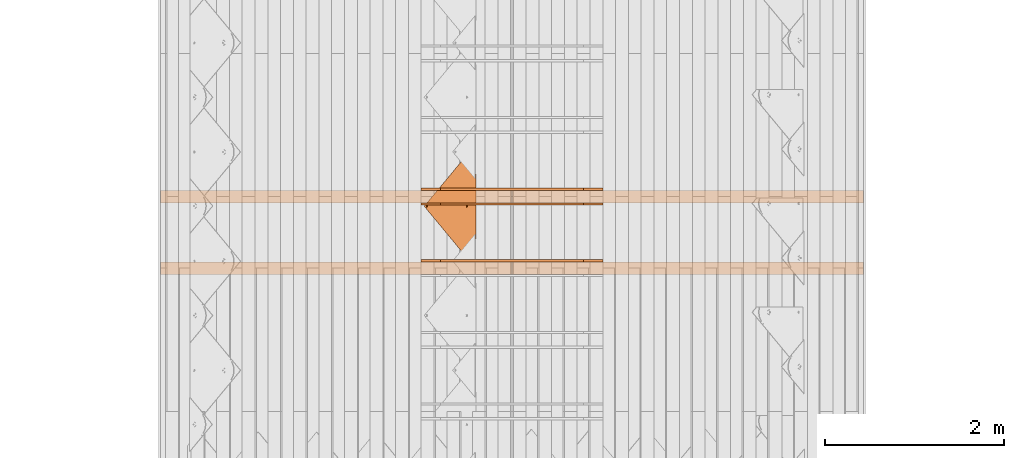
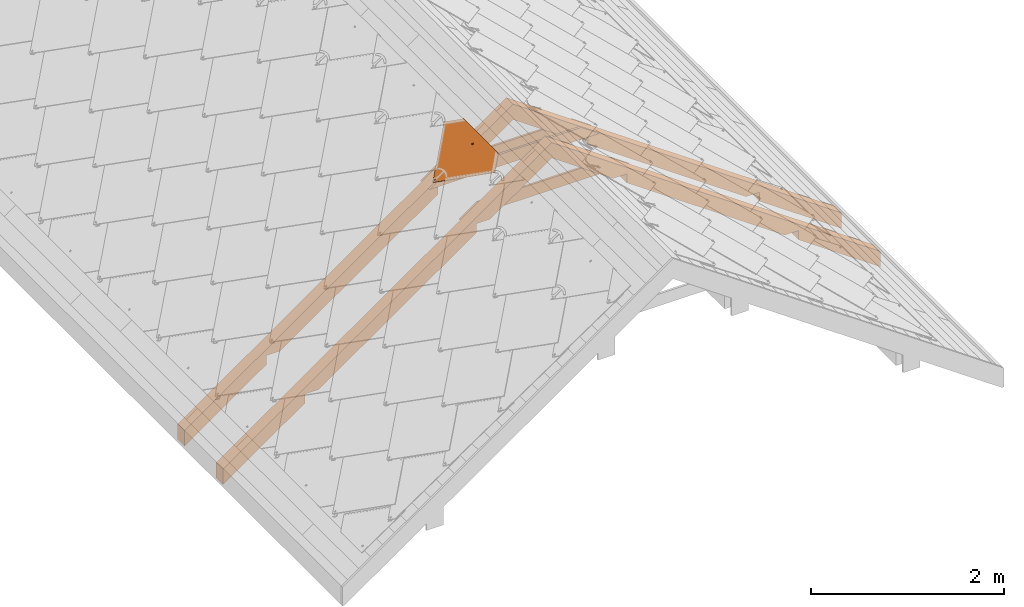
# One storey, part 33 of 133: 6 proxies, 1 element without a shape of its own.
"""IFC2X3 building model written with IfcOpenShell, lengths in millimetres."""

import ifcopenshell
import ifcopenshell.guid

model = None  # the IFC model being written
_history = None  # IfcOwnerHistory: only IFC2X3 demands one
_inside = {}  # id of a spatial element -> (the spatial element, [elements in it])
_under = {}  # id of a project, library or spatial element -> (it, [spatial elements below it])
_declared = {}  # id of a project -> (the project, [libraries it declares])
_typed = {}  # id of a type object -> (the type object, [elements of that type])
_made_of = {}  # id of a material, layer set ... -> (it, [elements and type objects made of it])


def new_model(schema):
    """Start an empty IFC model of exactly this schema.

    Asked for "IFC4X3", IfcOpenShell would pick the latest addendum, in which some entities
    have other attributes; the version numbers below select the first issue.
    IFC2X3 requires an IfcOwnerHistory on every rooted entity: one is made here for all.
    """
    global model, _history
    if schema == "IFC4X3":
        model = ifcopenshell.file(schema_version=(4, 3, 0, 0))
    else:
        model = ifcopenshell.file(schema=schema)
    _inside.clear()
    _under.clear()
    _declared.clear()
    _typed.clear()
    _made_of.clear()
    _history = None
    if model.schema == "IFC2X3":
        org = make("IfcOrganization", Name="unknown")
        user = make(
            "IfcPersonAndOrganization",
            ThePerson=make("IfcPerson", FamilyName="unknown"),
            TheOrganization=org,
        )
        app = make(
            "IfcApplication",
            ApplicationDeveloper=org,
            Version="unknown",
            ApplicationFullName="unknown",
            ApplicationIdentifier="unknown",
        )
        _history = make(
            "IfcOwnerHistory",
            OwningUser=user,
            OwningApplication=app,
            ChangeAction="ADDED",
            CreationDate=0,
        )
    return model


def make(cls, **values):
    """One entity of the class cls with the attributes given. An attribute that is None is left unset."""
    return model.create_entity(
        cls, **{name: value for name, value in values.items() if value is not None}
    )


def entity(cls, *values):
    """Any entity or typed value of the class cls, its attributes in the order of the schema. None: left unset."""
    e = model.create_entity(cls)
    for i, value in enumerate(values):
        if value is not None:
            e[i] = value
    return e


def rooted(cls, **values):
    """An entity with a GlobalId (a new one), such as an element, a storey or a relation."""
    return make(cls, GlobalId=ifcopenshell.guid.new(), OwnerHistory=_history, **values)


def si_unit(unit_type, name, prefix=None):
    """IfcSIUnit, for example si_unit("LENGTHUNIT", "METRE", prefix="MILLI")."""
    return make("IfcSIUnit", UnitType=unit_type, Prefix=prefix, Name=name)


def converted_unit(unit_type, name, factor, base, dimensions=None, offset=None):
    """IfcConversionBasedUnit, such as the inch: factor (a typed value) times the base unit."""
    return make(
        "IfcConversionBasedUnit"
        if offset is None
        else "IfcConversionBasedUnitWithOffset",
        ConversionOffset=offset,
        Dimensions=None
        if dimensions is None
        else entity("IfcDimensionalExponents", *dimensions),
        UnitType=unit_type,
        Name=name,
        ConversionFactor=make(
            "IfcMeasureWithUnit", ValueComponent=factor, UnitComponent=base
        ),
    )


def derived_unit(unit_type, elements):
    """IfcDerivedUnit: a product of units, each with its exponent."""
    return make(
        "IfcDerivedUnit",
        Elements=[
            make("IfcDerivedUnitElement", Unit=unit, Exponent=power)
            for unit, power in elements
        ],
        UnitType=unit_type,
    )


def assignment(units):
    """IfcUnitAssignment: the units of a project."""
    return None if units is None else make("IfcUnitAssignment", Units=units)


def point(xyz):
    """IfcCartesianPoint."""
    return None if xyz is None else make("IfcCartesianPoint", Coordinates=xyz)


def direction(xyz):
    """IfcDirection."""
    return None if xyz is None else make("IfcDirection", DirectionRatios=xyz)


def frame(location, z_axis=None, x_axis=None):
    """IfcAxis2Placement3D, a coordinate frame: its origin and axes. An axis left out is left unset."""
    return make(
        "IfcAxis2Placement3D",
        Location=point(location),
        Axis=direction(z_axis),
        RefDirection=direction(x_axis),
    )


def origin():
    """The frame at (0, 0, 0) with its axes left unset."""
    return frame((0.0, 0.0, 0.0))


def place(relative_to, where):
    """IfcLocalPlacement: puts the frame where relative to a parent placement (None: the world)."""
    return make(
        "IfcLocalPlacement", PlacementRelTo=relative_to, RelativePlacement=where
    )


def context(
    kind, dimensions, precision=None, world=None, true_north=None, identifier=None
):
    """IfcGeometricRepresentationContext, for example the 3D "Model" context."""
    return make(
        "IfcGeometricRepresentationContext",
        ContextIdentifier=identifier,
        ContextType=kind,
        CoordinateSpaceDimension=dimensions,
        Precision=precision,
        WorldCoordinateSystem=world,
        TrueNorth=true_north,
    )


def subcontext(parent, identifier, kind, view, scale=None):
    """IfcGeometricRepresentationSubContext, for example "Body" below "Model"."""
    return make(
        "IfcGeometricRepresentationSubContext",
        ContextIdentifier=identifier,
        ContextType=kind,
        ParentContext=parent,
        TargetScale=scale,
        TargetView=view,
    )


def project(units=None, contexts=None):
    """IfcProject with its units and contexts."""
    return rooted(
        "IfcProject",
        Name="project",
        RepresentationContexts=contexts,
        UnitsInContext=assignment(units),
    )


def spatial(cls, under=None, at=None, **own):
    """A site, building, storey or space (cls), placed at a placement, below another one or the project."""
    s = rooted(cls, ObjectPlacement=at, **own)
    if under is not None:
        _under.setdefault(under.id(), (under, []))[1].append(s)
    return s


def polyline(points):
    """IfcPolyline through the points."""
    return make("IfcPolyline", Points=[point(p) for p in points])


def outline(outer, holes=None, kind="AREA"):
    """IfcArbitraryClosedProfileDef: a profile drawn as a closed curve; with holes, ...WithVoids."""
    if holes is None:
        return make("IfcArbitraryClosedProfileDef", ProfileType=kind, OuterCurve=outer)
    return make(
        "IfcArbitraryProfileDefWithVoids",
        ProfileType=kind,
        OuterCurve=outer,
        InnerCurves=holes,
    )


def extrude(swept, where, along, depth):
    """IfcExtrudedAreaSolid: the profile swept, set in the frame where, extruded along a direction by depth."""
    return make(
        "IfcExtrudedAreaSolid",
        SweptArea=swept,
        Position=where,
        ExtrudedDirection=direction(along),
        Depth=depth,
    )


def faces_of(points, faces, orient=None, outer=None):
    """IfcFace entities. A face is a list of loops; a loop is a list of indices into points, from 0.

    orient and outer hold one flag for each loop. By default every Orientation is true, the
    first loop of a face is its IfcFaceOuterBound and the others are IfcFaceBound.
    """
    made = []
    for i, loops in enumerate(faces):
        bounds = []
        for j, loop in enumerate(loops):
            is_outer = j == 0 if outer is None else outer[i][j]
            bounds.append(
                make(
                    "IfcFaceOuterBound" if is_outer else "IfcFaceBound",
                    Bound=make("IfcPolyLoop", Polygon=[points[k] for k in loop]),
                    Orientation=True if orient is None else orient[i][j],
                )
            )
        made.append(make("IfcFace", Bounds=bounds))
    return made


def faceted_brep(points, faces, orient=None, outer=None, voids=None):
    """IfcFacetedBrep: a solid bounded by flat faces; with voids (closed shells), ...WithVoids."""
    shared = [point(p) for p in points]
    hull = make("IfcClosedShell", CfsFaces=faces_of(shared, faces, orient, outer))
    if voids is None:
        return make("IfcFacetedBrep", Outer=hull)
    return make(
        "IfcFacetedBrepWithVoids",
        Outer=hull,
        Voids=[
            make(cls, CfsFaces=faces_of(shared, fs, o, b)) for cls, fs, o, b in voids
        ],
    )


def shape(context_of_items, identifier, shape_type, items):
    """IfcShapeRepresentation: the items that make up one representation, for example the "Body"."""
    return make(
        "IfcShapeRepresentation",
        ContextOfItems=context_of_items,
        RepresentationIdentifier=identifier,
        RepresentationType=shape_type,
        Items=items,
    )


def source(mapping_origin, context_of_items, identifier, shape_type, items):
    """IfcRepresentationMap: a shape defined once, which mapped items show again and again."""
    return make(
        "IfcRepresentationMap",
        MappingOrigin=mapping_origin,
        MappedRepresentation=shape(context_of_items, identifier, shape_type, items),
    )


def transform(
    local_origin,
    x_axis=None,
    y_axis=None,
    z_axis=None,
    scale=None,
    scale2=None,
    scale3=None,
    uniform=True,
):
    """IfcCartesianTransformationOperator3D, or its non-uniform kind. x_axis, y_axis, z_axis: its Axis1, 2, 3."""
    if uniform:
        return make(
            "IfcCartesianTransformationOperator3D",
            Axis1=direction(x_axis),
            Axis2=direction(y_axis),
            LocalOrigin=point(local_origin),
            Scale=scale,
            Axis3=direction(z_axis),
        )
    return make(
        "IfcCartesianTransformationOperator3DnonUniform",
        Axis1=direction(x_axis),
        Axis2=direction(y_axis),
        LocalOrigin=point(local_origin),
        Scale=scale,
        Axis3=direction(z_axis),
        Scale2=scale2,
        Scale3=scale3,
    )


def mapped(mapping_source, mapping_target):
    """IfcMappedItem: shows the shape of a source again, moved by a transform."""
    return make(
        "IfcMappedItem", MappingSource=mapping_source, MappingTarget=mapping_target
    )


def material(Name=None, Category=None):
    """IfcMaterial."""
    return make("IfcMaterial", Name=Name, Category=Category)


def material_list(materials):
    """IfcMaterialList."""
    return make("IfcMaterialList", Materials=materials)


def made_of(thing, what):
    """Note that an element or type object is made of a material, layer set ...; save() writes the relation."""
    if what is not None:
        _made_of.setdefault(what.id(), (what, []))[1].append(thing)
    return thing


def type_object(cls, material=None, **own):
    """A type object (cls), such as IfcWallType, which elements share."""
    return made_of(rooted(cls, **own), material)


def type_shapes(of_type, sources):
    """Give a type object the sources (RepresentationMaps) that its elements show as mapped items."""
    of_type.RepresentationMaps = sources


def element(
    cls,
    number,
    at=None,
    inside=None,
    cuts=None,
    type_object=None,
    material=None,
    context=None,
    identifier="Body",
    shape_type=None,
    held_by="IfcProductDefinitionShape",
    body=None,
    shapes=None,
    **own,
):
    """One element of the class cls, such as IfcWall. Its Tag is "e" and its number.

    at: its placement. inside: the storey or other place that contains it. cuts: it is an
    opening in that element (IfcRelVoidsElement). A single representation is given by context,
    identifier, shape_type and body (its items); several are given by shapes. held_by: the class
    of the entity that holds the representations. save() writes the other relations.
    """
    e = rooted(cls, Tag="e%d" % number, ObjectPlacement=at, **own)
    if body is not None:
        shapes = [shape(context, identifier, shape_type, body)]
    if shapes is not None:
        e.Representation = make(held_by, Representations=shapes)
    if inside is not None:
        _inside.setdefault(inside.id(), (inside, []))[1].append(e)
    if cuts is not None:
        rooted(
            "IfcRelVoidsElement", RelatingBuildingElement=cuts, RelatedOpeningElement=e
        )
    if type_object is not None:
        _typed.setdefault(type_object.id(), (type_object, []))[1].append(e)
    return made_of(e, material)


def aggregate(whole, parts):
    """IfcRelAggregates: a whole, such as a stair, and the parts it consists of."""
    return rooted("IfcRelAggregates", RelatingObject=whole, RelatedObjects=parts)


def save(model, path):
    """Write the relations noted so far, then the file.

    IfcRelAggregates (storeys below a building ...), IfcRelContainedInSpatialStructure (elements
    in a storey), IfcRelDefinesByType, IfcRelAssociatesMaterial and IfcRelDeclares: one each for
    every whole, place, type object, material and project.
    """
    for whole, parts in _under.values():
        aggregate(whole, parts)
    for where, things in _inside.values():
        rooted(
            "IfcRelContainedInSpatialStructure",
            RelatedElements=things,
            RelatingStructure=where,
        )
    for kind, things in _typed.values():
        rooted("IfcRelDefinesByType", RelatedObjects=things, RelatingType=kind)
    for what, things in _made_of.values():
        rooted("IfcRelAssociatesMaterial", RelatedObjects=things, RelatingMaterial=what)
    for by, libraries in _declared.values():
        rooted("IfcRelDeclares", RelatingContext=by, RelatedDefinitions=libraries)
    model.write(path)


model = new_model("IFC2X3")

# Units and contexts
model_context = context("Model", 3, precision=0.01, world=origin(), true_north=direction((6.12303176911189e-17, 1.0)))
body_context = subcontext(model_context, "Body", "Model", "MODEL_VIEW")
ifc_project = project(units=[si_unit("LENGTHUNIT", "METRE", prefix="MILLI"), si_unit("AREAUNIT", "SQUARE_METRE"), si_unit("VOLUMEUNIT", "CUBIC_METRE"), converted_unit("PLANEANGLEUNIT", "DEGREE", entity("IfcRatioMeasure", 0.0174532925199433), si_unit("PLANEANGLEUNIT", "RADIAN"), dimensions=[0, 0, 0, 0, 0, 0, 0]), si_unit("MASSUNIT", "GRAM", prefix="KILO"), derived_unit("MASSDENSITYUNIT", [(si_unit("MASSUNIT", "GRAM", prefix="KILO"), 1), (si_unit("LENGTHUNIT", "METRE"), -3)]), si_unit("TIMEUNIT", "SECOND"), si_unit("FREQUENCYUNIT", "HERTZ"), si_unit("THERMODYNAMICTEMPERATUREUNIT", "DEGREE_CELSIUS"), derived_unit("THERMALTRANSMITTANCEUNIT", [(si_unit("MASSUNIT", "GRAM", prefix="KILO"), 1), (si_unit("THERMODYNAMICTEMPERATUREUNIT", "KELVIN"), -1), (si_unit("TIMEUNIT", "SECOND"), -3)]), derived_unit("VOLUMETRICFLOWRATEUNIT", [(si_unit("LENGTHUNIT", "METRE"), 3), (si_unit("TIMEUNIT", "SECOND"), -1)]), si_unit("ELECTRICCURRENTUNIT", "AMPERE"), si_unit("ELECTRICVOLTAGEUNIT", "VOLT"), si_unit("POWERUNIT", "WATT"), si_unit("FORCEUNIT", "NEWTON", prefix="KILO"), si_unit("ILLUMINANCEUNIT", "LUX"), si_unit("LUMINOUSFLUXUNIT", "LUMEN"), si_unit("LUMINOUSINTENSITYUNIT", "CANDELA"), derived_unit("USERDEFINED", [(si_unit("MASSUNIT", "GRAM", prefix="KILO"), -1), (si_unit("LENGTHUNIT", "METRE"), -2), (si_unit("TIMEUNIT", "SECOND"), 3), (si_unit("LUMINOUSFLUXUNIT", "LUMEN"), 1)]), derived_unit("LINEARVELOCITYUNIT", [(si_unit("LENGTHUNIT", "METRE"), 1), (si_unit("TIMEUNIT", "SECOND"), -1)]), si_unit("PRESSUREUNIT", "PASCAL"), derived_unit("USERDEFINED", [(si_unit("LENGTHUNIT", "METRE"), -2), (si_unit("MASSUNIT", "GRAM", prefix="KILO"), 1), (si_unit("TIMEUNIT", "SECOND"), -2)])], contexts=[model_context])

# Site, building, storey
site_placement = place(None, origin())
site = spatial("IfcSite", under=ifc_project, at=site_placement, Name="Default", CompositionType="ELEMENT")
building_placement = place(site_placement, origin())
building = spatial("IfcBuilding", under=site, at=building_placement, CompositionType="ELEMENT")
storey_placement = place(building_placement, origin())
storey = spatial("IfcBuildingStorey", under=building, at=storey_placement, Name="Level 1", CompositionType="ELEMENT", Elevation=0.0)

# Assembly, proxies
assembly_placement = place(storey_placement, origin())
assembly = element("IfcElementAssembly", 1, at=assembly_placement, inside=storey, Name="Structural Framing Assembly:Roof Construction Assembly", ObjectType="Structural Framing Assembly:Roof Construction Assembly", AssemblyPlace="NOTDEFINED", PredefinedType="USERDEFINED")
ifc_material_1 = material(Name="Wood - Generic - Wood For Showcase")
building_element_proxy_type_1 = type_object("IfcBuildingElementProxyType", Name="Structural Framing 1", PredefinedType="NOTDEFINED", material=ifc_material_1)
shared_shape_1 = source(origin(), body_context, "Body", "SweptSolid", [
    extrude(outline(polyline([(-929.245683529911, -1327.10037070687), (3863.25950492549, -1327.10037070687), (3975.29271103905, -1167.10037070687), (2778.93361405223, -1167.10037070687), (2713.54351952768, -1260.48710386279), (2580.17344271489, -1167.10037070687), (278.933614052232, -1167.10037070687), (213.543519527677, -1260.48710386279), (80.1734427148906, -1167.10037070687), (-817.212477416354, -1167.10037070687), (-1124.13653843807, -323.833443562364), (-1257.50661525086, -230.446710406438), (-1192.11652072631, -137.059977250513), (-1979.18689675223, 2025.39810840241), (-2112.55697356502, 2118.78484155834), (-2047.16687904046, 2212.17157471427), (-2456.34578886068, 3336.38138996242), (-2568.37899497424, 3176.38138996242), (-929.245683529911, -1327.10037070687)])), frame((1206.77890726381, 3785.55080214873, 1179.90959070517), z_axis=(0.0, 1.0, 0.0), x_axis=(0.819152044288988, 0.0, -0.573576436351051)), (0.0, 0.0, 1.0), 140.0),
])
type_shapes(building_element_proxy_type_1, [shared_shape_1])
proxy_1_placement = place(assembly_placement, frame((0.0, -7200.0, 0.0)))
proxy_1 = element("IfcBuildingElementProxy", 2, at=proxy_1_placement, type_object=building_element_proxy_type_1, material=ifc_material_1, Name="Structural Framing 10:Structural Framing 1", ObjectType="Structural Framing 10:Structural Framing 1", context=body_context, shape_type="MappedRepresentation", body=[
    mapped(shared_shape_1, transform((0.0, 0.0, 0.0), scale=1.0)),
])
building_element_proxy_type_2 = type_object("IfcBuildingElementProxyType", Name="Structural Framing 1", PredefinedType="NOTDEFINED", material=ifc_material_1)
shared_shape_2 = source(origin(), body_context, "Body", "SweptSolid", [
    extrude(outline(polyline([(-929.24568352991, -1327.10037070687), (3863.25950492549, -1327.10037070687), (3975.29271103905, -1167.10037070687), (2778.93361405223, -1167.10037070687), (2713.54351952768, -1260.48710386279), (2580.17344271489, -1167.10037070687), (278.933614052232, -1167.10037070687), (213.543519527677, -1260.48710386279), (80.1734427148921, -1167.10037070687), (-817.212477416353, -1167.10037070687), (-1124.13653843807, -323.833443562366), (-1257.50661525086, -230.446710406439), (-1192.11652072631, -137.059977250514), (-1979.18689675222, 2025.39810840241), (-2112.55697356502, 2118.78484155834), (-2047.16687904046, 2212.17157471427), (-2456.34578886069, 3336.38138996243), (-2568.37899497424, 3176.38138996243), (-929.24568352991, -1327.10037070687)])), frame((1206.77890726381, 3785.55080214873, 1179.90959070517), z_axis=(0.0, 1.0, 0.0), x_axis=(0.819152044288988, 0.0, -0.573576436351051)), (0.0, 0.0, 1.0), 140.0),
])
type_shapes(building_element_proxy_type_2, [shared_shape_2])
proxy_2_placement = place(assembly_placement, frame((0.0, -8000.0, 0.0)))
proxy_2 = element("IfcBuildingElementProxy", 3, at=proxy_2_placement, type_object=building_element_proxy_type_2, material=ifc_material_1, Name="Structural Framing 11:Structural Framing 1", ObjectType="Structural Framing 11:Structural Framing 1", context=body_context, shape_type="MappedRepresentation", body=[
    mapped(shared_shape_2, transform((0.0, 0.0, 0.0), scale=1.0)),
])
building_element_proxy_type_3 = type_object("IfcBuildingElementProxyType", Name="Structural Framing 296", PredefinedType="NOTDEFINED", material=ifc_material_1)
shared_shape_3 = source(origin(), body_context, "Body", "SweptSolid", [
    extrude(outline(polyline([(-1014.04699829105, -75.0), (1014.04699829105, -75.0), (799.824797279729, 75.0), (-799.824797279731, 75.0), (-1014.04699829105, -75.0)])), frame((1206.77890726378, 3760.55080214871, 2164.95664769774), z_axis=(0.0, 1.0, 0.0), x_axis=(-1.0, 0.0, 0.0)), (0.0, 0.0, 1.0), 24.9999999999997),
])
type_shapes(building_element_proxy_type_3, [shared_shape_3])
proxy_3_placement = place(assembly_placement, frame((0.0, -7200.0, 0.0)))
proxy_3 = element("IfcBuildingElementProxy", 4, at=proxy_3_placement, type_object=building_element_proxy_type_3, material=ifc_material_1, Name="Structural Framing 313:Structural Framing 296", ObjectType="Structural Framing 313:Structural Framing 296", context=body_context, shape_type="MappedRepresentation", body=[
    mapped(shared_shape_3, transform((0.0, 0.0, 0.0), scale=1.0)),
])
building_element_proxy_type_4 = type_object("IfcBuildingElementProxyType", Name="Structural Framing 296", PredefinedType="NOTDEFINED", material=ifc_material_1)
shared_shape_4 = source(origin(), body_context, "Body", "SweptSolid", [
    extrude(outline(polyline([(-1014.04699829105, -75.0), (1014.04699829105, -75.0), (799.824797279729, 75.0), (-799.824797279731, 75.0), (-1014.04699829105, -75.0)])), frame((1206.77890726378, 2325.55080214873, 2164.95664769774), z_axis=(0.0, 1.0, 0.0), x_axis=(-1.0, 0.0, 0.0)), (0.0, 0.0, 1.0), 25.0),
])
type_shapes(building_element_proxy_type_4, [shared_shape_4])
proxy_4_placement = place(assembly_placement, frame((0.0, -5600.0, 0.0)))
proxy_4 = element("IfcBuildingElementProxy", 5, at=proxy_4_placement, type_object=building_element_proxy_type_4, material=ifc_material_1, Name="Structural Framing 314:Structural Framing 296", ObjectType="Structural Framing 314:Structural Framing 296", context=body_context, shape_type="MappedRepresentation", body=[
    mapped(shared_shape_4, transform((0.0, 0.0, 0.0), scale=1.0)),
])
building_element_proxy_type_5 = type_object("IfcBuildingElementProxyType", Name="Structural Framing 296", PredefinedType="NOTDEFINED", material=ifc_material_1)
shared_shape_5 = source(origin(), body_context, "Body", "SweptSolid", [
    extrude(outline(polyline([(-1014.04699829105, -75.0), (1014.04699829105, -75.0), (799.824797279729, 75.0), (-799.824797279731, 75.0), (-1014.04699829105, -75.0)])), frame((1206.77890726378, 2325.55080214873, 2164.95664769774), z_axis=(0.0, 1.0, 0.0), x_axis=(-1.0, 0.0, 0.0)), (0.0, 0.0, 1.0), 25.0),
])
type_shapes(building_element_proxy_type_5, [shared_shape_5])
proxy_5_placement = place(assembly_placement, frame((0.0, -6400.0, 0.0)))
proxy_5 = element("IfcBuildingElementProxy", 6, at=proxy_5_placement, type_object=building_element_proxy_type_5, material=ifc_material_1, Name="Structural Framing 316:Structural Framing 296", ObjectType="Structural Framing 316:Structural Framing 296", context=body_context, shape_type="MappedRepresentation", body=[
    mapped(shared_shape_5, transform((0.0, 0.0, 0.0), scale=1.0)),
])
aggregate(assembly, [proxy_1, proxy_2, proxy_3, proxy_4, proxy_5])

# Proxy
ifc_material_2 = material(Name="Rubber - Sunstyle - Black")
ifc_material_3 = material(Name="Glass - Sunstyle - Tainted Black")
ifc_material_list_1 = material_list([ifc_material_2, ifc_material_3])
ifc_material_list_2 = material_list([ifc_material_2, ifc_material_3])
building_element_proxy_type_6 = type_object("IfcBuildingElementProxyType", Name="Shingle Top - Black", PredefinedType="NOTDEFINED", material=ifc_material_list_2)
shared_shape_6 = source(origin(), body_context, "Body", "Brep", [
    faceted_brep([(-518.396436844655, -96.9865733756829, 16.4476231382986), (-518.396436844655, -96.9614556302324, 17.9474128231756), (-526.881123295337, -88.4767691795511, 17.8053154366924), (-526.881123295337, -88.5018869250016, 16.3055257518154), (-376.996804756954, 61.3404039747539, 13.7960402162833), (-368.512118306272, 52.8557175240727, 13.9381376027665), (-376.996804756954, 61.3655217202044, 15.2958299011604), (-368.512118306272, 52.8808352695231, 15.4379272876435)], [[[0, 1, 2, 3]], [[0, 3, 4, 5]], [[3, 2, 6, 4]], [[2, 1, 7, 6]], [[1, 0, 5, 7]], [[5, 4, 6, 7]]]),
    faceted_brep([(0.166366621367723, -33.6374645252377, -4.47296585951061), (-5.6078362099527, -36.9707346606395, -4.4171418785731), (-5.60783620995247, -36.6024255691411, 17.5747274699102), (0.166366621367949, -33.2691554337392, 17.5189034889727), (-5.60783620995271, -43.6372749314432, -4.30549391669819), (-5.60783620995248, -43.2689658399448, 17.6863754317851), (0.166366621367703, -46.9705450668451, -4.24966993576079), (0.166366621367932, -46.6022359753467, 17.7421994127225), (5.94056945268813, -43.6372749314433, -4.30549391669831), (5.94056945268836, -43.2689658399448, 17.686375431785), (5.94056945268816, -36.9707346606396, -4.41714187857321), (5.94056945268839, -36.6024255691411, 17.5747274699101), (-8.43733754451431, -48.5381935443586, 17.774621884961), (0.16636662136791, -52.1014648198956, 17.8342978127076), (-12.0011084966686, -39.9356957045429, 17.6305514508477), (-8.43733754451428, -31.3331978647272, 17.4864810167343), (0.166366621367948, -27.7699265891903, 17.4268050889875), (8.77007078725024, -31.3331978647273, 17.4864810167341), (12.3338417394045, -39.935695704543, 17.6305514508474), (8.77007078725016, -48.5381935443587, 17.7746218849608), (-11.1578780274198, -37.6406185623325, 19.9433933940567), (-9.59010793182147, -39.8646808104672, 21.8708760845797), (0.166366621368, -32.5516055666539, 22.5035764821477), (0.166366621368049, -31.3111079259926, 21.9232298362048), (0.166366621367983, -29.1535570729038, 20.9138547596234), (0.166366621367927, -51.5454208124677, 19.1093557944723), (0.166366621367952, -50.6018442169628, 21.273060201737), (0.166366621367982, -47.1524685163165, 22.7481046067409), (0.166366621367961, -28.2829626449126, 18.7197675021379), (-6.15687907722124, -43.5022527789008, 22.6869725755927), (-6.15687907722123, -36.2018213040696, 22.5647085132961), (11.4906112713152, -42.1520387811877, 20.0189484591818), (10.0152467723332, -40.9390872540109, 21.7920079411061), (6.48961231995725, -36.2018213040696, 22.564708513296), (6.48961231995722, -43.5022527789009, 22.6869725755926), (-6.15687907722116, -43.3682243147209, 30.68986075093), (0.166366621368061, -47.0184400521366, 30.7509927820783), (0.166366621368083, -39.7180085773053, 30.6287287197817), (-6.15687907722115, -36.0677928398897, 30.5675966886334), (6.48961231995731, -43.368224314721, 30.6898607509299), (6.48961231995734, -36.0677928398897, 30.5675966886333), (0.166366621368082, -32.417577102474, 30.5064646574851), (0.166366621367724, -40.3040047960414, -4.36131789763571)], [[[0, 1, 2, 3]], [[1, 4, 5, 2]], [[4, 6, 7, 5]], [[6, 8, 9, 7]], [[8, 10, 11, 9]], [[10, 0, 3, 11]], [[12, 7, 13]], [[7, 12, 5]], [[14, 5, 12]], [[5, 14, 2]], [[15, 2, 14]], [[3, 2, 15]], [[15, 16, 3]], [[16, 17, 3]], [[11, 3, 17]], [[11, 17, 18]], [[9, 11, 18]], [[18, 19, 9]], [[7, 9, 19]], [[19, 13, 7]], [[20, 14, 12]], [[21, 22, 23, 24]], [[24, 20, 21]], [[25, 20, 12]], [[26, 27, 21]], [[15, 14, 20]], [[12, 13, 25]], [[20, 28, 15]], [[28, 20, 24]], [[21, 27, 29]], [[21, 29, 30]], [[26, 21, 20]], [[20, 25, 26]], [[15, 28, 16]], [[21, 30, 22]], [[31, 18, 17]], [[28, 31, 17]], [[32, 27, 26]], [[26, 31, 32]], [[26, 25, 31]], [[25, 19, 31]], [[17, 16, 28]], [[31, 19, 18]], [[24, 31, 28]], [[33, 34, 32]], [[23, 22, 33]], [[24, 32, 31]], [[27, 32, 34]], [[32, 23, 33]], [[19, 25, 13]], [[32, 24, 23]], [[35, 36, 37]], [[37, 38, 35]], [[36, 39, 37]], [[40, 37, 39]], [[37, 40, 41]], [[37, 41, 38]], [[42, 6, 4]], [[4, 1, 42]], [[1, 0, 42]], [[42, 8, 6]], [[0, 10, 42]], [[8, 42, 10]], [[22, 30, 38, 41]], [[30, 29, 35, 38]], [[29, 27, 36, 35]], [[27, 34, 39, 36]], [[34, 33, 40, 39]], [[33, 22, 41, 40]]]),
    faceted_brep([(0.0, -573.927138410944, 4.00636906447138), (-5.77420283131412, -577.260408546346, 4.0621930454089), (-5.77420283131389, -576.892099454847, 26.0540623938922), (0.0, -573.558829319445, 25.9982384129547), (-5.77420283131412, -583.926948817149, 4.1738410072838), (-5.7742028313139, -583.558639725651, 26.1657103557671), (0.0, -587.260218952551, 4.2296649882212), (0.0, -586.891909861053, 26.2215343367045), (5.77420283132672, -583.926948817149, 4.17384100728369), (5.77420283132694, -583.558639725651, 26.165710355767), (5.77420283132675, -577.260408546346, 4.06219304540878), (5.77420283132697, -576.892099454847, 26.0540623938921), (-8.60370416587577, -588.827867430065, 26.253956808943), (0.0, -592.391138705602, 26.3136327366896), (-12.1674751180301, -580.225369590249, 26.1098863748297), (-8.60370416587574, -571.622871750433, 25.9658159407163), (0.0, -568.059600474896, 25.9061400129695), (8.60370416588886, -571.622871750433, 25.9658159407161), (12.1674751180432, -580.225369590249, 26.1098863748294), (8.60370416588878, -588.827867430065, 26.2539568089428), (-11.3242446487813, -577.930292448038, 28.4227283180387), (-9.75647455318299, -580.154354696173, 30.3502110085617), (0.0, -572.84127945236, 30.9829114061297), (0.0, -571.600781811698, 30.4025647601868), (0.0, -569.44323095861, 29.3931896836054), (0.0, -591.835094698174, 27.5886907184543), (0.0, -590.891518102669, 29.752395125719), (0.0, -587.442142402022, 31.227439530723), (0.0, -568.572636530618, 27.1991024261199), (-6.32324569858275, -583.791926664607, 31.1663074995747), (-6.32324569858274, -576.491495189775, 31.0440434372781), (11.3242446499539, -582.441712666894, 28.4982833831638), (9.84888015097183, -581.228761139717, 30.2713428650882), (6.32324569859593, -576.491495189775, 31.044043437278), (6.32324569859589, -583.791926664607, 31.1663074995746), (-6.32324569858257, -583.657898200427, 39.169195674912), (0.0, -587.308113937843, 39.2303277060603), (0.0, -580.007682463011, 39.1080636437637), (-6.32324569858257, -576.357466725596, 39.0469316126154), (6.32324569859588, -583.657898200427, 39.1691956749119), (6.32324569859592, -576.357466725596, 39.0469316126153), (0.0, -572.70725098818, 38.9857995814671), (0.0, -580.593678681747, 4.11801702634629)], [[[0, 1, 2, 3]], [[1, 4, 5, 2]], [[4, 6, 7, 5]], [[6, 8, 9, 7]], [[8, 10, 11, 9]], [[10, 0, 3, 11]], [[12, 7, 13]], [[7, 12, 5]], [[14, 5, 12]], [[5, 14, 2]], [[15, 2, 14]], [[3, 2, 15]], [[15, 16, 3]], [[16, 17, 3]], [[11, 3, 17]], [[11, 17, 18]], [[9, 11, 18]], [[18, 19, 9]], [[7, 9, 19]], [[19, 13, 7]], [[20, 14, 12]], [[21, 22, 23, 24]], [[24, 20, 21]], [[25, 20, 12]], [[26, 27, 21]], [[15, 14, 20]], [[12, 13, 25]], [[20, 28, 15]], [[28, 20, 24]], [[21, 27, 29]], [[21, 29, 30]], [[26, 21, 20]], [[20, 25, 26]], [[15, 28, 16]], [[21, 30, 22]], [[31, 18, 17]], [[28, 31, 17]], [[32, 27, 26]], [[26, 31, 32]], [[26, 25, 31]], [[25, 19, 31]], [[17, 16, 28]], [[31, 19, 18]], [[24, 31, 28]], [[33, 34, 32]], [[23, 22, 33]], [[24, 32, 31]], [[27, 32, 34]], [[32, 23, 33]], [[19, 25, 13]], [[32, 24, 23]], [[35, 36, 37]], [[37, 38, 35]], [[36, 39, 37]], [[40, 37, 39]], [[37, 40, 41]], [[37, 41, 38]], [[42, 6, 4]], [[4, 1, 42]], [[1, 0, 42]], [[42, 8, 6]], [[0, 10, 42]], [[8, 42, 10]], [[22, 30, 38, 41]], [[30, 29, 35, 38]], [[29, 27, 36, 35]], [[27, 34, 39, 36]], [[34, 33, 40, 39]], [[33, 22, 41, 40]]]),
    faceted_brep([(518.482751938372, -96.8754983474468, 17.9260478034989), (526.967438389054, -88.3908118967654, 17.7839504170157), (526.967438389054, -88.3656941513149, 19.2837401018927), (518.482751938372, -96.8503806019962, 19.4258374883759), (349.749400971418, 71.8105397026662, 15.1009763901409), (358.234087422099, 80.2952261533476, 14.9588790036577), (358.234087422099, 80.3203438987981, 16.4586686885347), (349.749400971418, 71.8356574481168, 16.6007660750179)], [[[0, 1, 2, 3]], [[1, 0, 4, 5]], [[2, 1, 5, 6]], [[3, 2, 6, 7]], [[0, 3, 7, 4]], [[4, 7, 6, 5]]]),
    faceted_brep([(358.234087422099, 80.2952261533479, 14.9588790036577), (6.94661128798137, -35.8890860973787, 16.9046771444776), (7.74581466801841, -37.8182632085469, 16.9369860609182), (5.67526230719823, -34.2324641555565, 16.8769328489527), (8.01840805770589, -39.8885252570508, 16.9716577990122), (7.74581466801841, -41.9587873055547, 17.0063295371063), (6.94661128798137, -43.8879644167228, 17.0386384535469), (526.967438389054, -88.3908118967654, 17.7839504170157), (4.01840805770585, -32.9612934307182, 16.855643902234), (2.08896041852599, -32.1622021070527, 16.8422611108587), (0.0184080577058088, -31.8896469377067, 16.8376964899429), (-358.233442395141, 80.2952261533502, 14.9588790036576), (-2.05214430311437, -32.1622021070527, 16.8422611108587), (-3.98159194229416, -32.9612934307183, 16.855643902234), (-5.63844619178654, -34.2324641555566, 16.8769328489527), (-6.90979517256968, -35.8890860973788, 16.9046771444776), (-7.70899855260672, -37.8182632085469, 16.9369860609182), (-7.98159194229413, -39.8885252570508, 16.9716577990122), (-7.70899855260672, -41.9587873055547, 17.0063295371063), (-6.90979517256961, -43.8879644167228, 17.0386384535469), (-526.966793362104, -88.390811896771, 17.7839504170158), (-5.63844619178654, -45.544586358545, 17.0663827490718), (-5.6568542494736, -574.226981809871, 25.9204974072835), (-6.92820323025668, -575.883603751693, 25.9482417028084), (-7.72740661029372, -577.812780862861, 25.980550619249), (-8.0, -579.883042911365, 26.015222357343), (-7.72740661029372, -581.953304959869, 26.049894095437), (0.000322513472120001, -615.210165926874, 26.6068637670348), (7.72740661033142, -581.953304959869, 26.049894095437), (6.92820323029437, -583.882482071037, 26.0822030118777), (5.65685424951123, -585.53910401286, 26.1099473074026), (4.0, -586.810274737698, 26.1312362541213), (2.070552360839, -587.609366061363, 26.1446190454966), (0.0, -587.881921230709, 26.1491836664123), (-2.0705523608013, -587.609366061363, 26.1446190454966), (-4.0, -586.810274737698, 26.1312362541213), (-5.65685424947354, -585.53910401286, 26.1099473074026), (-6.92820323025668, -583.882482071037, 26.0822030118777), (-4.0, -572.955811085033, 25.8992084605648), (-3.98159194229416, -46.8157570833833, 17.0876716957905), (-2.07055236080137, -572.156719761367, 25.8858256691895), (-2.05214430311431, -47.614848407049, 17.1010544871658), (0.0, -571.884164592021, 25.8812610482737), (0.0184080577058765, -47.8874035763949, 17.1056191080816), (2.07055236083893, -572.156719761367, 25.8858256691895), (2.08896041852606, -47.6148484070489, 17.1010544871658), (4.0, -572.955811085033, 25.8992084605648), (4.01840805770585, -46.8157570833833, 17.0876716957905), (5.65685424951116, -574.226981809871, 25.9204974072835), (5.67526230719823, -45.544586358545, 17.0663827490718), (6.92820323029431, -575.883603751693, 25.9482417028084), (7.72740661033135, -577.812780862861, 25.980550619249), (8.0, -579.883042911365, 26.015222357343), (-358.233442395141, 80.1947551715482, 8.9597202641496), (-6.90979517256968, -35.9895570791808, 10.9055184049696), (-7.70899855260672, -37.9187341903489, 10.9378273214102), (-5.63844619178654, -34.3329351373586, 10.8777741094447), (-7.98159194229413, -39.9889962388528, 10.9724990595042), (-7.70899855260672, -42.0592582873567, 11.0071707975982), (-6.90979517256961, -43.9884353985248, 11.0394797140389), (-526.966793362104, -88.4912828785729, 11.7847916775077), (-3.98159194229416, -33.0617644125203, 10.856485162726), (-2.05214430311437, -32.2626730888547, 10.8431023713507), (0.0184080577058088, -31.9901179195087, 10.8385377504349), (358.234087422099, 80.1947551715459, 8.95972026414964), (2.08896041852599, -32.2626730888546, 10.8431023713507), (4.01840805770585, -33.0617644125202, 10.856485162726), (5.67526230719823, -34.3329351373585, 10.8777741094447), (6.94661128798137, -35.9895570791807, 10.9055184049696), (7.74581466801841, -37.9187341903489, 10.9378273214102), (8.01840805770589, -39.9889962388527, 10.9724990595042), (7.74581466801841, -42.0592582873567, 11.0071707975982), (6.94661128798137, -43.9884353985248, 11.0394797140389), (526.967438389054, -88.4912828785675, 11.7847916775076), (5.67526230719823, -45.645057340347, 11.0672240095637), (5.65685424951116, -574.327452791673, 19.9213386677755), (6.92820323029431, -575.984074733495, 19.9490829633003), (7.72740661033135, -577.913251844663, 19.981391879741), (8.0, -579.983513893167, 20.016063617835), (7.72740661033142, -582.053775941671, 20.050735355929), (0.000322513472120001, -615.310636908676, 20.6077050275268), (-7.72740661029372, -582.053775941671, 20.050735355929), (-6.92820323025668, -583.982953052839, 20.0830442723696), (-5.65685424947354, -585.639574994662, 20.1107885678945), (-4.0, -586.9107457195, 20.1320775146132), (-2.0705523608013, -587.709837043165, 20.1454603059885), (0.0, -587.982392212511, 20.1500249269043), (2.070552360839, -587.709837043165, 20.1454603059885), (4.0, -586.9107457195, 20.1320775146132), (5.65685424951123, -585.639574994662, 20.1107885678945), (6.92820323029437, -583.982953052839, 20.0830442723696), (4.01840805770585, -46.9162280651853, 11.0885129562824), (4.0, -573.056282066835, 19.9000497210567), (2.08896041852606, -47.7153193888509, 11.1018957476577), (2.07055236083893, -572.257190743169, 19.8866669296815), (0.0184080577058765, -47.9878745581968, 11.1064603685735), (0.0, -571.984635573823, 19.8821023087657), (-2.05214430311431, -47.7153193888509, 11.1018957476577), (-2.07055236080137, -572.257190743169, 19.8866669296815), (-3.98159194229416, -46.9162280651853, 11.0885129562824), (-4.0, -573.056282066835, 19.9000497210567), (-5.63844619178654, -45.645057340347, 11.0672240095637), (-5.6568542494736, -574.327452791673, 19.9213386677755), (-6.92820323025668, -575.984074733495, 19.9490829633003), (-7.72740661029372, -577.913251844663, 19.981391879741), (-8.0, -579.983513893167, 20.016063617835)], [[[0, 1, 2]], [[1, 0, 3]], [[0, 2, 4]], [[4, 5, 0]], [[5, 6, 0]], [[7, 0, 6]], [[8, 3, 0]], [[9, 8, 0]], [[10, 9, 0]], [[0, 11, 10]], [[12, 10, 11]], [[13, 12, 11]], [[14, 13, 11]], [[11, 15, 14]], [[15, 11, 16]], [[16, 11, 17]], [[11, 18, 17]], [[18, 11, 19]], [[11, 20, 19]], [[19, 20, 21]], [[20, 22, 21]], [[23, 22, 20]], [[24, 23, 20]], [[24, 20, 25]], [[26, 25, 20]], [[27, 26, 20]], [[7, 28, 27]], [[29, 27, 28]], [[27, 29, 30]], [[30, 31, 27]], [[31, 32, 27]], [[27, 32, 33]], [[27, 33, 34]], [[34, 35, 27]], [[27, 35, 36]], [[36, 37, 27]], [[37, 26, 27]], [[38, 21, 22]], [[38, 39, 21]], [[38, 40, 39]], [[40, 41, 39]], [[40, 42, 41]], [[41, 42, 43]], [[44, 43, 42]], [[44, 45, 43]], [[45, 44, 46]], [[46, 47, 45]], [[46, 48, 47]], [[48, 49, 47]], [[50, 7, 48]], [[48, 7, 49]], [[7, 50, 51]], [[7, 51, 52]], [[52, 28, 7]], [[7, 6, 49]], [[53, 54, 55]], [[54, 53, 56]], [[53, 55, 57]], [[58, 53, 57]], [[59, 53, 58]], [[60, 53, 59]], [[61, 56, 53]], [[62, 61, 53]], [[53, 63, 62]], [[63, 53, 64]], [[65, 63, 64]], [[66, 65, 64]], [[64, 67, 66]], [[67, 64, 68]], [[68, 64, 69]], [[70, 69, 64]], [[71, 70, 64]], [[72, 71, 64]], [[72, 64, 73]], [[72, 73, 74]], [[74, 73, 75]], [[73, 76, 75]], [[76, 73, 77]], [[77, 73, 78]], [[79, 78, 73]], [[79, 73, 80]], [[60, 81, 80]], [[80, 81, 82]], [[80, 82, 83]], [[83, 84, 80]], [[84, 85, 80]], [[85, 86, 80]], [[80, 86, 87]], [[80, 87, 88]], [[80, 88, 89]], [[79, 80, 90]], [[80, 89, 90]], [[75, 91, 74]], [[75, 92, 91]], [[92, 93, 91]], [[93, 92, 94]], [[93, 94, 95]], [[96, 95, 94]], [[97, 95, 96]], [[96, 98, 97]], [[98, 99, 97]], [[98, 100, 99]], [[100, 101, 99]], [[100, 102, 101]], [[60, 101, 102]], [[103, 60, 102]], [[103, 104, 60]], [[104, 105, 60]], [[105, 81, 60]], [[59, 101, 60]], [[27, 20, 60, 80]], [[7, 27, 80, 73]], [[0, 7, 73, 64]], [[25, 105, 104, 24]], [[24, 104, 103, 23]], [[38, 22, 102, 100]], [[102, 22, 23, 103]], [[40, 38, 100, 98]], [[40, 98, 96, 42]], [[42, 96, 94, 44]], [[44, 94, 92, 46]], [[50, 48, 75, 76]], [[75, 48, 46, 92]], [[51, 50, 76, 77]], [[51, 77, 78, 52]], [[52, 78, 79, 28]], [[28, 79, 90, 29]], [[31, 30, 89, 88]], [[29, 90, 89, 30]], [[87, 32, 31, 88]], [[32, 87, 86, 33]], [[34, 33, 86, 85]], [[34, 85, 84, 35]], [[37, 36, 83, 82]], [[35, 84, 83, 36]], [[37, 82, 81, 26]], [[26, 81, 105, 25]], [[17, 57, 55, 16]], [[16, 55, 54, 15]], [[13, 14, 56, 61]], [[56, 14, 15, 54]], [[12, 13, 61, 62]], [[12, 62, 63, 10]], [[10, 63, 65, 9]], [[9, 65, 66, 8]], [[1, 3, 67, 68]], [[67, 3, 8, 66]], [[2, 1, 68, 69]], [[2, 69, 70, 4]], [[4, 70, 71, 5]], [[5, 71, 72, 6]], [[47, 49, 74, 91]], [[74, 49, 6, 72]], [[45, 47, 91, 93]], [[45, 93, 95, 43]], [[43, 95, 97, 41]], [[41, 97, 99, 39]], [[19, 21, 101, 59]], [[101, 21, 39, 99]], [[18, 19, 59, 58]], [[18, 58, 57, 17]], [[11, 0, 64, 53]], [[20, 11, 53, 60]]]),
])
type_shapes(building_element_proxy_type_6, [shared_shape_6])
proxy_6_placement = place(storey_placement, frame((745.409615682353, -3452.80473173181, 2507.46510885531), z_axis=(-0.57357643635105, 0.0, 0.819152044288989), x_axis=(0.0, -1.0, 0.0)))
element("IfcBuildingElementProxy", 7, at=proxy_6_placement, inside=storey, type_object=building_element_proxy_type_6, material=ifc_material_list_1, Name="Roofing_Panels_SunStyle_Tile_Shingle-Top:Shingle Top - Black", ObjectType="Roofing_Panels_SunStyle_Tile_Shingle-Top:Shingle Top - Black", context=body_context, shape_type="MappedRepresentation", body=[
    mapped(shared_shape_6, transform((0.0, 0.0, 0.0), scale=1.0)),
])

save(model, "model.ifc")
